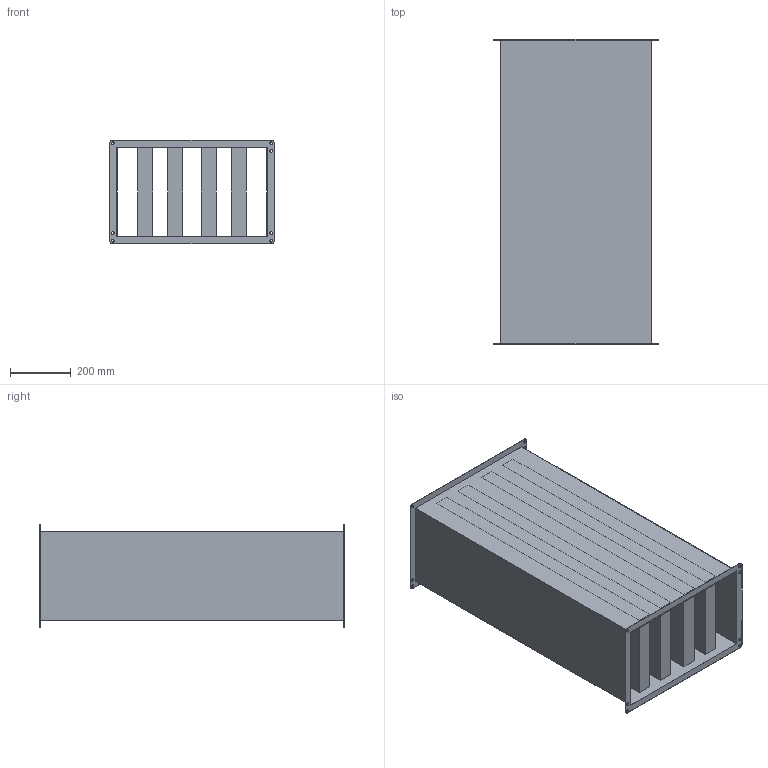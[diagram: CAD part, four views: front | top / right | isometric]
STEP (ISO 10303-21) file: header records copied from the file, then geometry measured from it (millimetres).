
FILE_DESCRIPTION(/* description */ (''),/* implementation_level */ '2;1');
FILE_NAME(/* name */ 'Z:\Output\KSD_50-30-08729-001.stp',/* time_stamp */ '2017-07-13T11:41:38+02:00',/* author */ ('Engineering1'),/* organization */ (''),/* preprocessor_version */ 'ST-DEVELOPER v16.5',/* originating_system */ 'Autodesk Inventor 2017',/* authorisation */ '');
FILE_SCHEMA (('AUTOMOTIVE_DESIGN { 1 0 10303 214 3 1 1 }'));
Length unit declared in the file: millimetre
Products named in the file (1): JVK-1
Bounding box: 540 x 1000 x 340 mm (x, y, z)
Volume: 56716931.4 mm3; surface area: 5221062.4 mm2
Topology: 1 solids, 1 shells, 58 faces, 169 edges, 115 vertices
Faces by surface type: plane 36, cylinder 22
Full cylindrical faces by diameter (mm): 9 x14
Entity records: 1906 total; most frequent: CARTESIAN_POINT 315, DIRECTION 310, ORIENTED_EDGE 296, EDGE_CURVE 148, EDGE_LOOP 112, VERTEX_POINT 108, LINE 104, VECTOR 104
